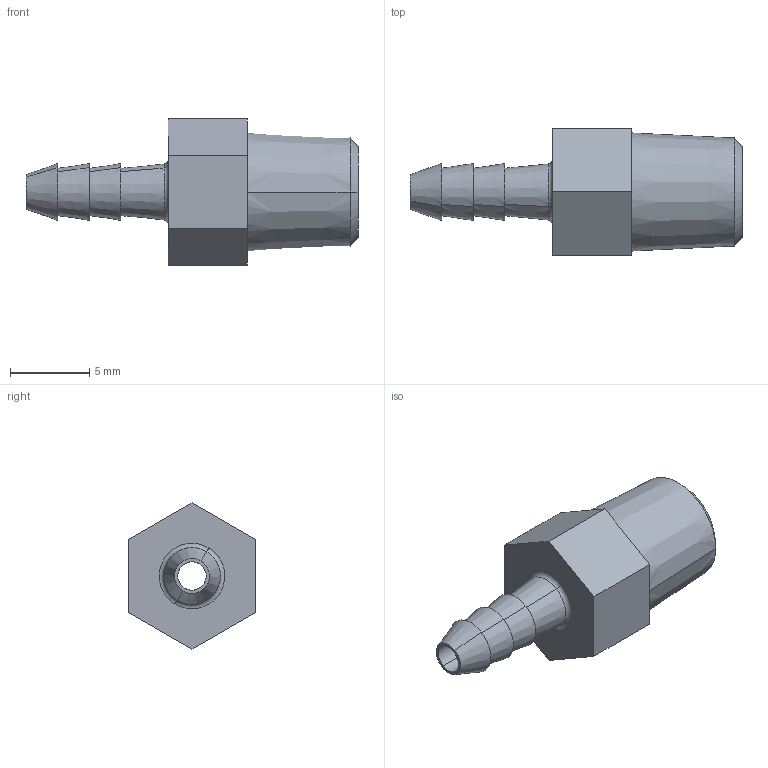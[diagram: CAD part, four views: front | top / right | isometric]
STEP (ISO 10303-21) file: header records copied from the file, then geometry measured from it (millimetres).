
FILE_DESCRIPTION(('CATIA V5 STEP Exchange'),'2;1');
FILE_NAME('G:\够快云库\系统集成开发部\1.部门成员\孙国\气管、接头\接头\STP\LS-JT-4 气嘴.stp','2021-03-18T07:39:10+00:00',('none'),('none'),'CATIA Version 5 Release 20 GA (IN-10)','CATIA V5 STEP AP214','none');
FILE_SCHEMA(('AUTOMOTIVE_DESIGN { 1 0 10303 214 1 1 1 1 }'));
Length unit declared in the file: millimetre
Products named in the file (1): 5100018
Bounding box: 21 x 8 x 9.24 mm (x, y, z)
Volume: 574.3 mm3; surface area: 600.3 mm2
Topology: 1 solids, 1 shells, 31 faces, 68 edges, 44 vertices
Faces by surface type: plane 13, cone 12, cylinder 4, torus 2
Entity records: 920 total; most frequent: CARTESIAN_POINT 201, ORIENTED_EDGE 136, DIRECTION 115, EDGE_CURVE 68, AXIS2_PLACEMENT_3D 57, VERTEX_POINT 44, EDGE_LOOP 38, VECTOR 34
